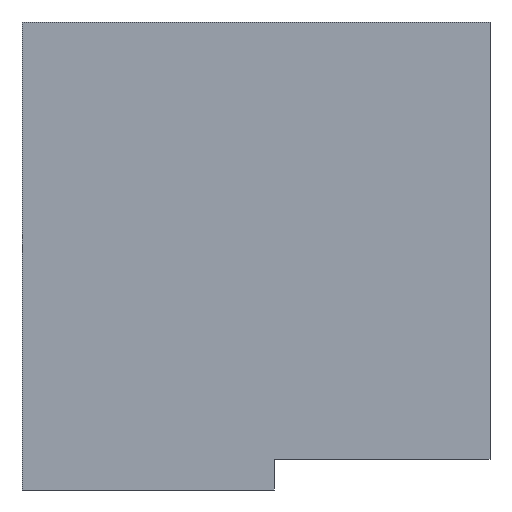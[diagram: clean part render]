
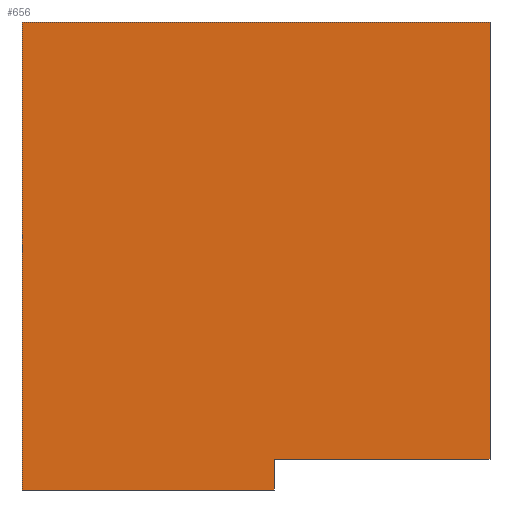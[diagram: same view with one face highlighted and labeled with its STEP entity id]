
A CAD part, left-side view. The second image highlights one B-rep face of the part: STEP entity #656.
In plain terms, the highlighted planar face has unit normal (-1, 0, 0).
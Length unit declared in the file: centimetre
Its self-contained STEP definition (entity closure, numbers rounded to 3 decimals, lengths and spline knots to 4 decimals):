
#1 = CARTESIAN_POINT ( 'NONE',  ( 0., 0., 1000. ) ) ;
#11 = CARTESIAN_POINT ( 'NONE',  ( 0., 460.8906, 65.4876 ) ) ;
#73 = CARTESIAN_POINT ( 'NONE',  ( 0., 460.8906, 65.4876 ) ) ;
#81 = CARTESIAN_POINT ( 'NONE',  ( 0., 1000., 1000. ) ) ;
#88 = LINE ( 'NONE', #73, #769 ) ;
#101 = PLANE ( 'NONE',  #785 ) ;
#117 = VERTEX_POINT ( 'NONE', #707 ) ;
#120 = EDGE_CURVE ( 'NONE', #871, #790, #781, .T. ) ;
#134 = CARTESIAN_POINT ( 'NONE',  ( 0., 460.8906, 65.4876 ) ) ;
#158 = CARTESIAN_POINT ( 'NONE',  ( 0., 1000., 1000. ) ) ;
#211 = CARTESIAN_POINT ( 'NONE',  ( 0., 1000., 1000. ) ) ;
#233 = CARTESIAN_POINT ( 'NONE',  ( 0., 1000., 0. ) ) ;
#267 = DIRECTION ( 'NONE',  ( 0., -1., 0. ) ) ;
#270 = VERTEX_POINT ( 'NONE', #529 ) ;
#308 = CARTESIAN_POINT ( 'NONE',  ( 0., 460.8906, 0. ) ) ;
#333 = VECTOR ( 'NONE', #932, 100. ) ;
#339 = LINE ( 'NONE', #81, #553 ) ;
#355 = VERTEX_POINT ( 'NONE', #1083 ) ;
#366 = EDGE_CURVE ( 'NONE', #117, #476, #832, .T. ) ;
#376 = ORIENTED_EDGE ( 'NONE', *, *, #1071, .F. ) ;
#389 = VECTOR ( 'NONE', #573, 100. ) ;
#473 = LINE ( 'NONE', #233, #389 ) ;
#476 = VERTEX_POINT ( 'NONE', #502 ) ;
#502 = CARTESIAN_POINT ( 'NONE',  ( 0., 1000., 0. ) ) ;
#504 = ORIENTED_EDGE ( 'NONE', *, *, #366, .T. ) ;
#505 = LINE ( 'NONE', #1, #333 ) ;
#529 = CARTESIAN_POINT ( 'NONE',  ( 0., 0., 1000. ) ) ;
#553 = VECTOR ( 'NONE', #267, 100. ) ;
#573 = DIRECTION ( 'NONE',  ( 0., -1., 0. ) ) ;
#575 = DIRECTION ( 'NONE',  ( 0., 0., -1. ) ) ;
#590 = DIRECTION ( 'NONE',  ( 0., -1., 0. ) ) ;
#616 = DIRECTION ( 'NONE',  ( 0., 0., -1. ) ) ;
#656 = ADVANCED_FACE ( 'NONE', ( #977 ), #101, .F. ) ;
#700 = VECTOR ( 'NONE', #1043, 100. ) ;
#707 = CARTESIAN_POINT ( 'NONE',  ( 0., 1000., 1000. ) ) ;
#726 = ORIENTED_EDGE ( 'NONE', *, *, #917, .F. ) ;
#741 = VECTOR ( 'NONE', #575, 100. ) ;
#742 = ORIENTED_EDGE ( 'NONE', *, *, #826, .T. ) ;
#769 = VECTOR ( 'NONE', #590, 100. ) ;
#774 = EDGE_LOOP ( 'NONE', ( #827, #1006, #726, #376, #504, #742 ) ) ;
#781 = LINE ( 'NONE', #11, #700 ) ;
#785 = AXIS2_PLACEMENT_3D ( 'NONE', #211, #799, #616 ) ;
#790 = VERTEX_POINT ( 'NONE', #308 ) ;
#799 = DIRECTION ( 'NONE',  ( 1., 0., 0. ) ) ;
#826 = EDGE_CURVE ( 'NONE', #476, #790, #473, .T. ) ;
#827 = ORIENTED_EDGE ( 'NONE', *, *, #120, .F. ) ;
#832 = LINE ( 'NONE', #158, #741 ) ;
#871 = VERTEX_POINT ( 'NONE', #134 ) ;
#892 = EDGE_CURVE ( 'NONE', #871, #355, #88, .T. ) ;
#917 = EDGE_CURVE ( 'NONE', #270, #355, #505, .T. ) ;
#932 = DIRECTION ( 'NONE',  ( 0., 0., -1. ) ) ;
#977 = FACE_OUTER_BOUND ( 'NONE', #774, .T. ) ;
#1006 = ORIENTED_EDGE ( 'NONE', *, *, #892, .T. ) ;
#1043 = DIRECTION ( 'NONE',  ( 0., 0., -1. ) ) ;
#1071 = EDGE_CURVE ( 'NONE', #117, #270, #339, .T. ) ;
#1083 = CARTESIAN_POINT ( 'NONE',  ( 0., 0., 65.4876 ) ) ;
